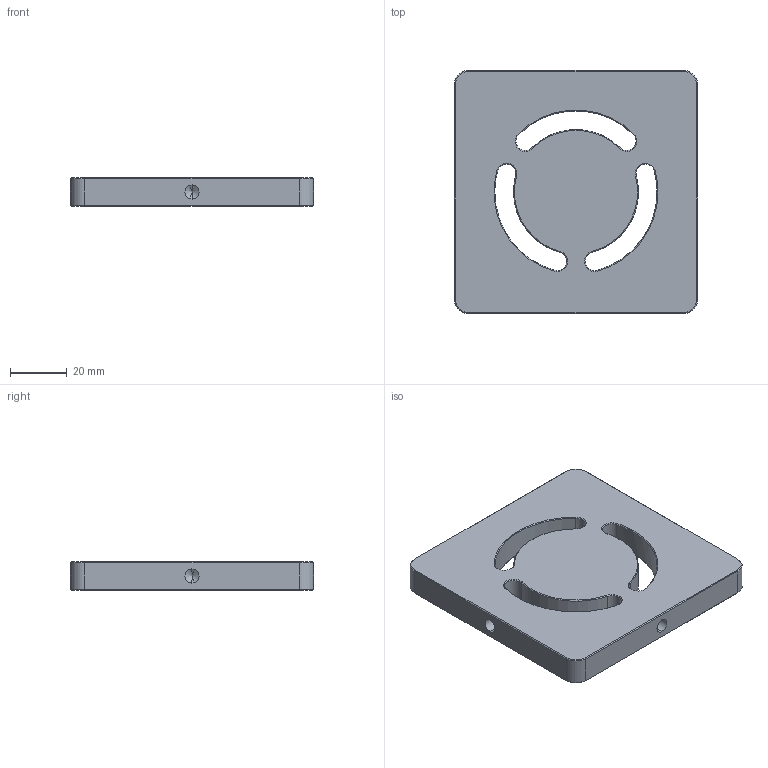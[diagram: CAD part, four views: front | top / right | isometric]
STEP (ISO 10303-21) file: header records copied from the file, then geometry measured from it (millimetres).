
FILE_DESCRIPTION (( 'STEP AP214' ), '1' );
FILE_NAME ('笢諾隙扞ん蛌諉.STEP', '2026-05-27T09:13:40', ( '' ), ( '' ), 'SwSTEP 2.0', 'SolidWorks 2024', '' );
FILE_SCHEMA (( 'AUTOMOTIVE_DESIGN' ));
Length unit declared in the file: millimetre
Products named in the file (1): 中空回射器转接
Bounding box: 86 x 86 x 10 mm (x, y, z)
Volume: 63779.9 mm3; surface area: 19877.6 mm2
Topology: 1 solids, 1 shells, 93 faces, 220 edges, 125 vertices
Faces by surface type: cone 50, cylinder 29, plane 14
Entity records: 2634 total; most frequent: DIRECTION 505, CARTESIAN_POINT 431, ORIENTED_EDGE 424, EDGE_CURVE 212, AXIS2_PLACEMENT_3D 199, VERTEX_POINT 125, VECTOR 107, LINE 107
